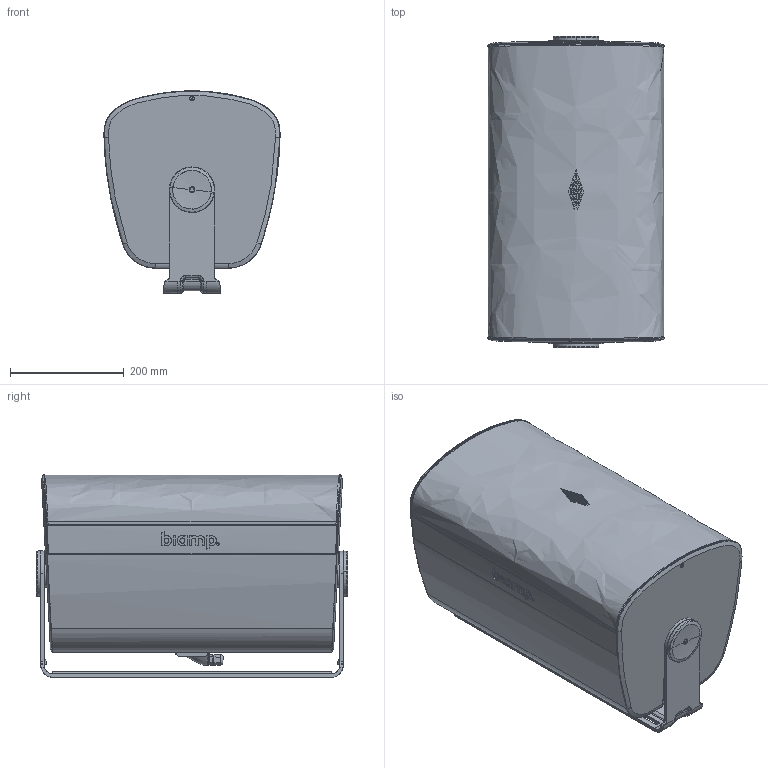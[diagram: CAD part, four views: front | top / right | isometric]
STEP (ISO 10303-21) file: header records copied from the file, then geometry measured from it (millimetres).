
FILE_DESCRIPTION (( 'STEP AP203' ), '1' );
FILE_NAME ('DESONO EX-S10-UB-W.90A.step', '2021-12-21T00:39:32', ( '' ), ( '' ), 'SwSTEP 2.0', 'SolidWorks 2021', '' );
FILE_SCHEMA (( 'CONFIG_CONTROL_DESIGN' ));
Length unit declared in the file: millimetre
Products named in the file (7): DESONO EX-S10-UB-W.90A; 525.0455; 525.0393; DESONO EX-S10-CM-W; 525.0450; 525.0450 M10 BOLT; 525.0450 OVER MOLD
Assembly tree (8 placements, depth 3):
  DESONO EX-S10-UB-W.90A
    DESONO EX-S10-CM-W
    525.0455  x2
    525.0450  x2
      525.0450 OVER MOLD
      525.0450 M10 BOLT
    525.0393
Bounding box: 309.64 x 548.22 x 356 mm (x, y, z)
Volume: 62345 mm3; surface area: 1182065.3 mm2
Topology: 8 solids, 86 shells, 1176 faces, 4131 edges, 3000 vertices
Faces by surface type: plane 526, bspline 276, cylinder 226, cone 98, torus 46, sphere 4
Entity records: 62303 total; most frequent: CARTESIAN_POINT 37893, ORIENTED_EDGE 5117, DIRECTION 3672, EDGE_CURVE 3303, VERTEX_POINT 2480, VECTOR 1294, LINE 1294, AXIS2_PLACEMENT_3D 1189
